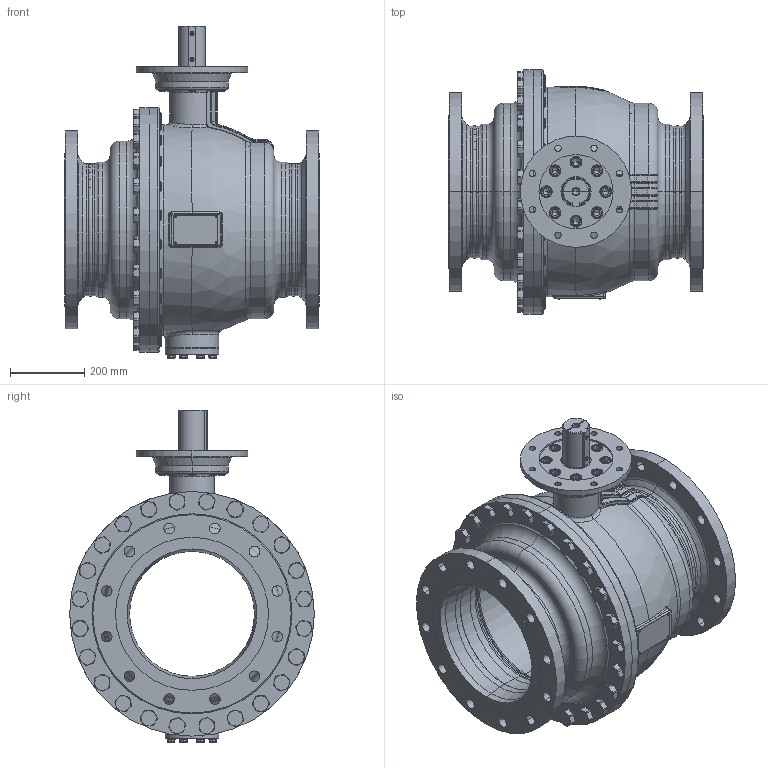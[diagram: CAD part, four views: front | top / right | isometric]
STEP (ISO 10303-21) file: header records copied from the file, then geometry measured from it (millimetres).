
FILE_DESCRIPTION((''),'2;1');
FILE_NAME('KHI-F_350_CL150-F25-P_SW0001','2026-02-05T15:36:40',('fischerkl'),('KLINGER'),'CREO PARAMETRIC BY PTC INC, 2023014','CREO PARAMETRIC BY PTC INC, 2023014','');
FILE_SCHEMA(('CONFIG_CONTROL_DESIGN'));
Products named in the file (1): KHI-F_350_CL150-F25-P_SW0001
Bounding box: 686 x 660 x 895.8 mm (x, y, z)
Volume: 44504057.3 mm3; surface area: 5977590.3 mm2
Topology: 1 solids, 4 shells, 3422 faces, 8625 edges, 5381 vertices
Faces by surface type: plane 1745, cylinder 791, cone 454, torus 303, bspline 99, sphere 30
Entity records: 144201 total; most frequent: CARTESIAN_POINT 62733, ORIENTED_EDGE 17198, DIRECTION 16882, EDGE_CURVE 8599, AXIS2_PLACEMENT_3D 6438, VERTEX_POINT 5381, VECTOR 4006, LINE 4006
